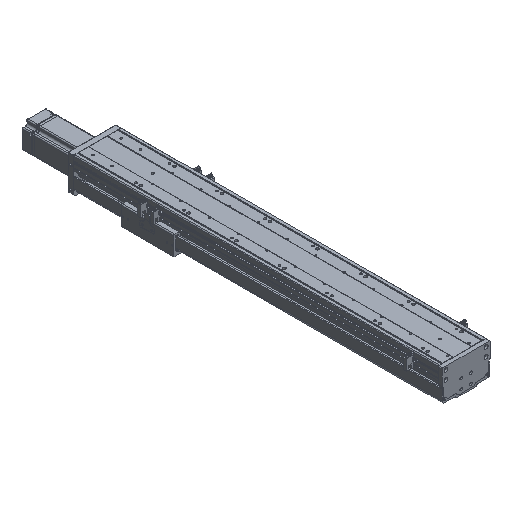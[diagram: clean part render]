
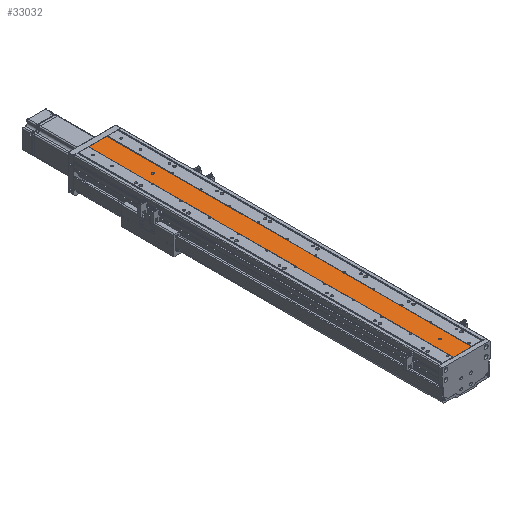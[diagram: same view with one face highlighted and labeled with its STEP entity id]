
A CAD part, isometric view. The second image highlights one B-rep face of the part: STEP entity #33032.
In plain terms, the highlighted planar face has unit normal (0, 0, 1).
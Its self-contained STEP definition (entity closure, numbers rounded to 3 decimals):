
#1357 = DIRECTION ( 'NONE',  ( 0., 0., -1. ) ) ;
#1366 = PLANE ( 'NONE',  #41546 ) ;
#1393 = CARTESIAN_POINT ( 'NONE',  ( -10645.079, 762., -17040.86 ) ) ;
#1394 = DIRECTION ( 'NONE',  ( -1., 0., 0. ) ) ;
#3085 = VECTOR ( 'NONE', #33395, 1000. ) ;
#3129 = CIRCLE ( 'NONE', #42254, 2.5 ) ;
#3181 = LINE ( 'NONE', #33398, #3085 ) ;
#3293 = VECTOR ( 'NONE', #33558, 1000. ) ;
#3305 = LINE ( 'NONE', #33593, #3321 ) ;
#3321 = VECTOR ( 'NONE', #33628, 1000. ) ;
#3347 = CIRCLE ( 'NONE', #42238, 2.5 ) ;
#3366 = LINE ( 'NONE', #33527, #3378 ) ;
#3378 = VECTOR ( 'NONE', #33561, 1000. ) ;
#3407 = LINE ( 'NONE', #33520, #3293 ) ;
#3887 = CARTESIAN_POINT ( 'NONE',  ( -10628.579, 647., -17040.86 ) ) ;
#3895 = CARTESIAN_POINT ( 'NONE',  ( -10623.579, 47., -17040.86 ) ) ;
#3902 = CARTESIAN_POINT ( 'NONE',  ( -10623.579, 647., -17040.86 ) ) ;
#3912 = CARTESIAN_POINT ( 'NONE',  ( -10628.579, 47., -17040.86 ) ) ;
#11361 = EDGE_LOOP ( 'NONE', ( #23217, #23169 ) ) ;
#11371 = EDGE_LOOP ( 'NONE', ( #23129, #23221 ) ) ;
#11382 = EDGE_LOOP ( 'NONE', ( #23215, #23174, #23109, #23102 ) ) ;
#14869 = FACE_BOUND ( 'NONE', #11361, .T. ) ;
#14891 = FACE_BOUND ( 'NONE', #11371, .T. ) ;
#14914 = FACE_OUTER_BOUND ( 'NONE', #11382, .T. ) ;
#19661 = EDGE_CURVE ( 'NONE', #36493, #36495, #3129, .T. ) ;
#19670 = EDGE_CURVE ( 'NONE', #45837, #45860, #3181, .T. ) ;
#19719 = EDGE_CURVE ( 'NONE', #36472, #36455, #3347, .T. ) ;
#19725 = EDGE_CURVE ( 'NONE', #45897, #45878, #3407, .T. ) ;
#19727 = EDGE_CURVE ( 'NONE', #45897, #45837, #3366, .T. ) ;
#19743 = EDGE_CURVE ( 'NONE', #45878, #45860, #3305, .T. ) ;
#23102 = ORIENTED_EDGE ( 'NONE', *, *, #19727, .T. ) ;
#23109 = ORIENTED_EDGE ( 'NONE', *, *, #19725, .F. ) ;
#23129 = ORIENTED_EDGE ( 'NONE', *, *, #36090, .T. ) ;
#23169 = ORIENTED_EDGE ( 'NONE', *, *, #19661, .T. ) ;
#23174 = ORIENTED_EDGE ( 'NONE', *, *, #19743, .F. ) ;
#23215 = ORIENTED_EDGE ( 'NONE', *, *, #19670, .T. ) ;
#23217 = ORIENTED_EDGE ( 'NONE', *, *, #36081, .T. ) ;
#23221 = ORIENTED_EDGE ( 'NONE', *, *, #19719, .T. ) ;
#27648 = CARTESIAN_POINT ( 'NONE',  ( -10607.079, 0., -17040.86 ) ) ;
#27651 = CARTESIAN_POINT ( 'NONE',  ( -10607.079, 762., -17040.86 ) ) ;
#27759 = CARTESIAN_POINT ( 'NONE',  ( -10645.079, 0., -17040.86 ) ) ;
#27785 = CARTESIAN_POINT ( 'NONE',  ( -10645.079, 762., -17040.86 ) ) ;
#30546 = CIRCLE ( 'NONE', #31425, 2.5 ) ;
#30596 = CIRCLE ( 'NONE', #31423, 2.5 ) ;
#31423 = AXIS2_PLACEMENT_3D ( 'NONE', #40635, #40842, #40910 ) ;
#31425 = AXIS2_PLACEMENT_3D ( 'NONE', #40081, #40075, #40091 ) ;
#33032 = ADVANCED_FACE ( 'NONE', ( #14891, #14869, #14914 ), #1366, .F. ) ;
#33388 = CARTESIAN_POINT ( 'NONE',  ( -10626.079, 47., -17040.86 ) ) ;
#33395 = DIRECTION ( 'NONE',  ( 1., 0., 0. ) ) ;
#33398 = CARTESIAN_POINT ( 'NONE',  ( -10645.079, 0., -17040.86 ) ) ;
#33403 = DIRECTION ( 'NONE',  ( 0., 0., -1. ) ) ;
#33419 = DIRECTION ( 'NONE',  ( -1., 0., 0. ) ) ;
#33520 = CARTESIAN_POINT ( 'NONE',  ( -10645.079, 762., -17040.86 ) ) ;
#33527 = CARTESIAN_POINT ( 'NONE',  ( -10645.079, 762., -17040.86 ) ) ;
#33537 = CARTESIAN_POINT ( 'NONE',  ( -10626.079, 647., -17040.86 ) ) ;
#33538 = DIRECTION ( 'NONE',  ( -1., 0., 0. ) ) ;
#33547 = DIRECTION ( 'NONE',  ( 0., 0., -1. ) ) ;
#33558 = DIRECTION ( 'NONE',  ( 1., 0., 0. ) ) ;
#33561 = DIRECTION ( 'NONE',  ( 0., -1., 0. ) ) ;
#33593 = CARTESIAN_POINT ( 'NONE',  ( -10607.079, 762., -17040.86 ) ) ;
#33628 = DIRECTION ( 'NONE',  ( 0., -1., 0. ) ) ;
#36081 = EDGE_CURVE ( 'NONE', #36495, #36493, #30546, .T. ) ;
#36090 = EDGE_CURVE ( 'NONE', #36455, #36472, #30596, .T. ) ;
#36455 = VERTEX_POINT ( 'NONE', #3902 ) ;
#36472 = VERTEX_POINT ( 'NONE', #3887 ) ;
#36493 = VERTEX_POINT ( 'NONE', #3912 ) ;
#36495 = VERTEX_POINT ( 'NONE', #3895 ) ;
#40075 = DIRECTION ( 'NONE',  ( 0., 0., -1. ) ) ;
#40081 = CARTESIAN_POINT ( 'NONE',  ( -10626.079, 47., -17040.86 ) ) ;
#40091 = DIRECTION ( 'NONE',  ( -1., 0., 0. ) ) ;
#40635 = CARTESIAN_POINT ( 'NONE',  ( -10626.079, 647., -17040.86 ) ) ;
#40842 = DIRECTION ( 'NONE',  ( 0., 0., -1. ) ) ;
#40910 = DIRECTION ( 'NONE',  ( -1., 0., 0. ) ) ;
#41546 = AXIS2_PLACEMENT_3D ( 'NONE', #1393, #1357, #1394 ) ;
#42238 = AXIS2_PLACEMENT_3D ( 'NONE', #33537, #33547, #33538 ) ;
#42254 = AXIS2_PLACEMENT_3D ( 'NONE', #33388, #33403, #33419 ) ;
#45837 = VERTEX_POINT ( 'NONE', #27759 ) ;
#45860 = VERTEX_POINT ( 'NONE', #27648 ) ;
#45878 = VERTEX_POINT ( 'NONE', #27651 ) ;
#45897 = VERTEX_POINT ( 'NONE', #27785 ) ;
